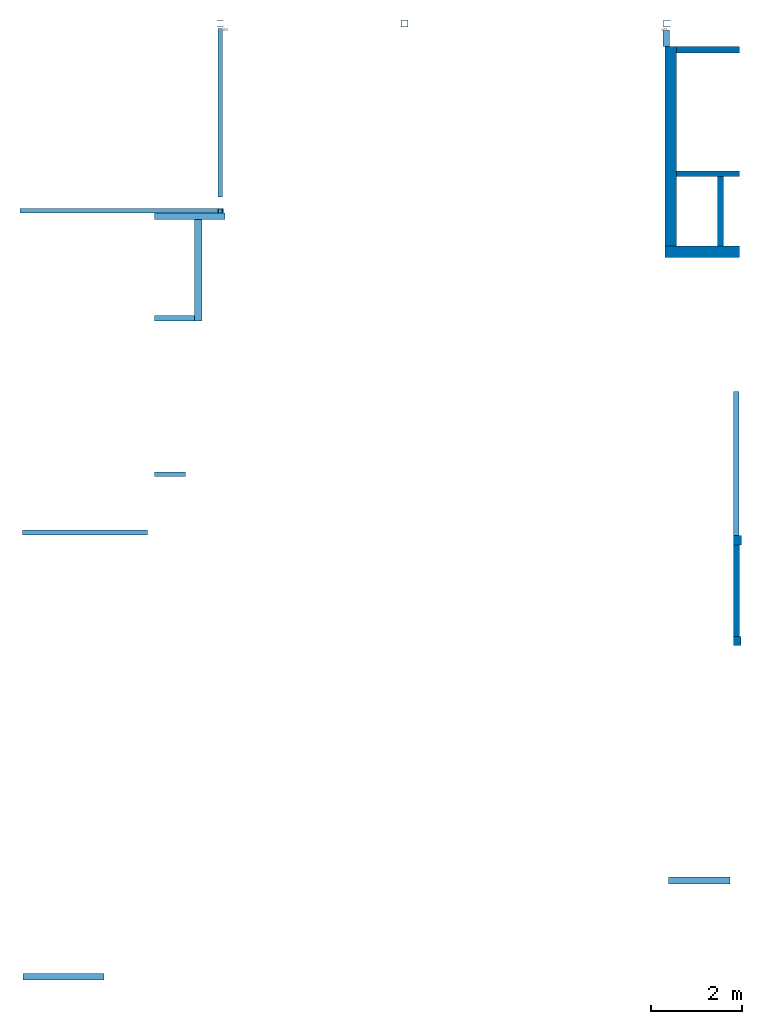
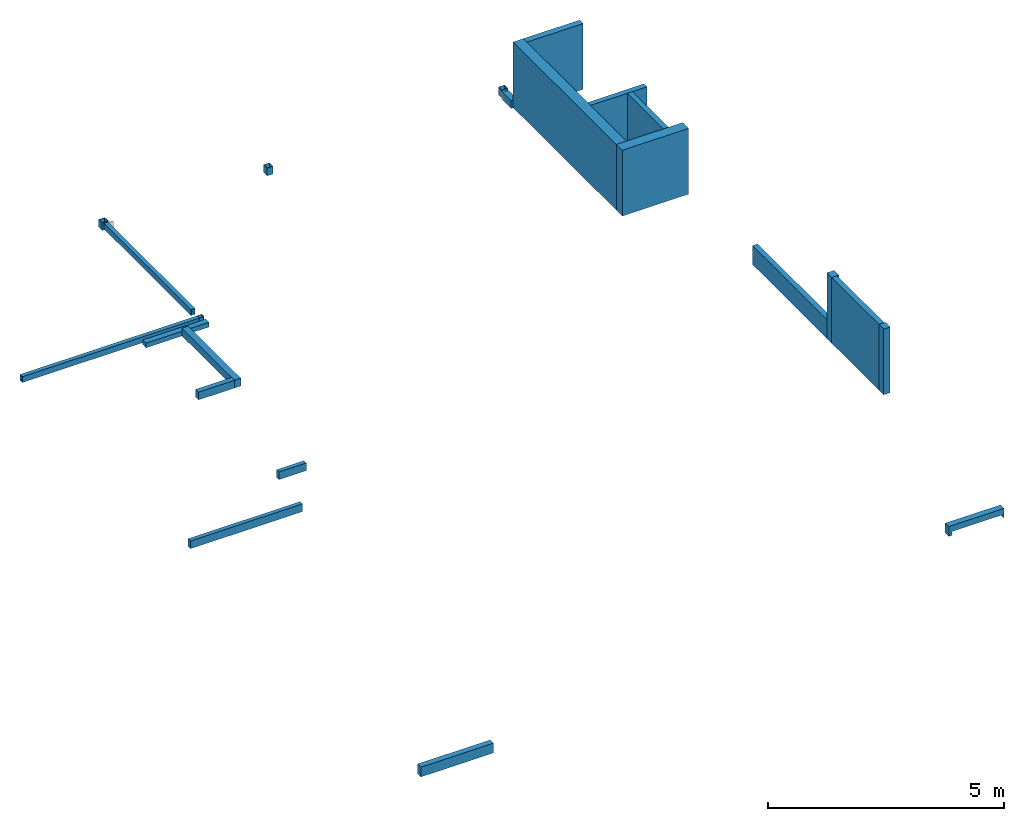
# One storey, part 1 of 2: 17 walls, 4 columns, 2 beams, 1 opening.
"""IFC2X3 building model written with IfcOpenShell, lengths in millimetres."""

import ifcopenshell
import ifcopenshell.guid

model = None  # the IFC model being written
_history = None  # IfcOwnerHistory: only IFC2X3 demands one
_inside = {}  # id of a spatial element -> (the spatial element, [elements in it])
_under = {}  # id of a project, library or spatial element -> (it, [spatial elements below it])
_declared = {}  # id of a project -> (the project, [libraries it declares])
_typed = {}  # id of a type object -> (the type object, [elements of that type])
_made_of = {}  # id of a material, layer set ... -> (it, [elements and type objects made of it])


def new_model(schema):
    """Start an empty IFC model of exactly this schema.

    Asked for "IFC4X3", IfcOpenShell would pick the latest addendum, in which some entities
    have other attributes; the version numbers below select the first issue.
    IFC2X3 requires an IfcOwnerHistory on every rooted entity: one is made here for all.
    """
    global model, _history
    if schema == "IFC4X3":
        model = ifcopenshell.file(schema_version=(4, 3, 0, 0))
    else:
        model = ifcopenshell.file(schema=schema)
    _inside.clear()
    _under.clear()
    _declared.clear()
    _typed.clear()
    _made_of.clear()
    _history = None
    if model.schema == "IFC2X3":
        org = make("IfcOrganization", Name="unknown")
        user = make(
            "IfcPersonAndOrganization",
            ThePerson=make("IfcPerson", FamilyName="unknown"),
            TheOrganization=org,
        )
        app = make(
            "IfcApplication",
            ApplicationDeveloper=org,
            Version="unknown",
            ApplicationFullName="unknown",
            ApplicationIdentifier="unknown",
        )
        _history = make(
            "IfcOwnerHistory",
            OwningUser=user,
            OwningApplication=app,
            ChangeAction="ADDED",
            CreationDate=0,
        )
    return model


def make(cls, **values):
    """One entity of the class cls with the attributes given. An attribute that is None is left unset."""
    return model.create_entity(
        cls, **{name: value for name, value in values.items() if value is not None}
    )


def entity(cls, *values):
    """Any entity or typed value of the class cls, its attributes in the order of the schema. None: left unset."""
    e = model.create_entity(cls)
    for i, value in enumerate(values):
        if value is not None:
            e[i] = value
    return e


def rooted(cls, **values):
    """An entity with a GlobalId (a new one), such as an element, a storey or a relation."""
    return make(cls, GlobalId=ifcopenshell.guid.new(), OwnerHistory=_history, **values)


def si_unit(unit_type, name, prefix=None):
    """IfcSIUnit, for example si_unit("LENGTHUNIT", "METRE", prefix="MILLI")."""
    return make("IfcSIUnit", UnitType=unit_type, Prefix=prefix, Name=name)


def converted_unit(unit_type, name, factor, base, dimensions=None, offset=None):
    """IfcConversionBasedUnit, such as the inch: factor (a typed value) times the base unit."""
    return make(
        "IfcConversionBasedUnit"
        if offset is None
        else "IfcConversionBasedUnitWithOffset",
        ConversionOffset=offset,
        Dimensions=None
        if dimensions is None
        else entity("IfcDimensionalExponents", *dimensions),
        UnitType=unit_type,
        Name=name,
        ConversionFactor=make(
            "IfcMeasureWithUnit", ValueComponent=factor, UnitComponent=base
        ),
    )


def derived_unit(unit_type, elements):
    """IfcDerivedUnit: a product of units, each with its exponent."""
    return make(
        "IfcDerivedUnit",
        Elements=[
            make("IfcDerivedUnitElement", Unit=unit, Exponent=power)
            for unit, power in elements
        ],
        UnitType=unit_type,
    )


def assignment(units):
    """IfcUnitAssignment: the units of a project."""
    return None if units is None else make("IfcUnitAssignment", Units=units)


def point(xyz):
    """IfcCartesianPoint."""
    return None if xyz is None else make("IfcCartesianPoint", Coordinates=xyz)


def direction(xyz):
    """IfcDirection."""
    return None if xyz is None else make("IfcDirection", DirectionRatios=xyz)


def frame(location, z_axis=None, x_axis=None):
    """IfcAxis2Placement3D, a coordinate frame: its origin and axes. An axis left out is left unset."""
    return make(
        "IfcAxis2Placement3D",
        Location=point(location),
        Axis=direction(z_axis),
        RefDirection=direction(x_axis),
    )


def frame_2d(location, x_axis=None):
    """IfcAxis2Placement2D, a coordinate frame in the plane: its origin and x axis."""
    return make(
        "IfcAxis2Placement2D", Location=point(location), RefDirection=direction(x_axis)
    )


def origin():
    """The frame at (0, 0, 0) with its axes left unset."""
    return frame((0.0, 0.0, 0.0))


def origin_with_axes():
    """The frame at (0, 0, 0) with the z axis (0, 0, 1) and the x axis (1, 0, 0) written out."""
    return frame((0.0, 0.0, 0.0), z_axis=(0.0, 0.0, 1.0), x_axis=(1.0, 0.0, 0.0))


def origin_2d_with_axis():
    """The frame at (0, 0) in the plane with the x axis (1, 0) written out."""
    return frame_2d((0.0, 0.0), x_axis=(1.0, 0.0))


def place(relative_to, where):
    """IfcLocalPlacement: puts the frame where relative to a parent placement (None: the world)."""
    return make(
        "IfcLocalPlacement", PlacementRelTo=relative_to, RelativePlacement=where
    )


def context(
    kind, dimensions, precision=None, world=None, true_north=None, identifier=None
):
    """IfcGeometricRepresentationContext, for example the 3D "Model" context."""
    return make(
        "IfcGeometricRepresentationContext",
        ContextIdentifier=identifier,
        ContextType=kind,
        CoordinateSpaceDimension=dimensions,
        Precision=precision,
        WorldCoordinateSystem=world,
        TrueNorth=true_north,
    )


def subcontext(parent, identifier, kind, view, scale=None):
    """IfcGeometricRepresentationSubContext, for example "Body" below "Model"."""
    return make(
        "IfcGeometricRepresentationSubContext",
        ContextIdentifier=identifier,
        ContextType=kind,
        ParentContext=parent,
        TargetScale=scale,
        TargetView=view,
    )


def project(units=None, contexts=None):
    """IfcProject with its units and contexts."""
    return rooted(
        "IfcProject",
        Name="project",
        RepresentationContexts=contexts,
        UnitsInContext=assignment(units),
    )


def spatial(cls, under=None, at=None, **own):
    """A site, building, storey or space (cls), placed at a placement, below another one or the project."""
    s = rooted(cls, ObjectPlacement=at, **own)
    if under is not None:
        _under.setdefault(under.id(), (under, []))[1].append(s)
    return s


def polyline(points):
    """IfcPolyline through the points."""
    return make("IfcPolyline", Points=[point(p) for p in points])


def profile(cls, at=None, kind="AREA", **sizes):
    """A parametric profile (cls). Its sizes go by their IFC names, for example OverallWidth=200.0."""
    return make(cls, ProfileType=kind, Position=at, **sizes)


def rectangle(**sizes):
    """IfcRectangleProfileDef."""
    return profile("IfcRectangleProfileDef", **sizes)


def outline(outer, holes=None, kind="AREA"):
    """IfcArbitraryClosedProfileDef: a profile drawn as a closed curve; with holes, ...WithVoids."""
    if holes is None:
        return make("IfcArbitraryClosedProfileDef", ProfileType=kind, OuterCurve=outer)
    return make(
        "IfcArbitraryProfileDefWithVoids",
        ProfileType=kind,
        OuterCurve=outer,
        InnerCurves=holes,
    )


def extrude(swept, where, along, depth):
    """IfcExtrudedAreaSolid: the profile swept, set in the frame where, extruded along a direction by depth."""
    return make(
        "IfcExtrudedAreaSolid",
        SweptArea=swept,
        Position=where,
        ExtrudedDirection=direction(along),
        Depth=depth,
    )


def boolean(op, a, b):
    """IfcBooleanResult of two solids."""
    return make("IfcBooleanResult", Operator=op, FirstOperand=a, SecondOperand=b)


def clip(a, b, op="DIFFERENCE"):
    """IfcBooleanClippingResult: the solid a cut by the half space b."""
    return make(
        "IfcBooleanClippingResult", Operator=op, FirstOperand=a, SecondOperand=b
    )


def halfspace(plane, agree):
    """IfcHalfSpaceSolid: all space on one side of the plane z = 0 of the frame plane."""
    return make(
        "IfcHalfSpaceSolid",
        BaseSurface=make("IfcPlane", Position=plane),
        AgreementFlag=agree,
    )


def faces_of(points, faces, orient=None, outer=None):
    """IfcFace entities. A face is a list of loops; a loop is a list of indices into points, from 0.

    orient and outer hold one flag for each loop. By default every Orientation is true, the
    first loop of a face is its IfcFaceOuterBound and the others are IfcFaceBound.
    """
    made = []
    for i, loops in enumerate(faces):
        bounds = []
        for j, loop in enumerate(loops):
            is_outer = j == 0 if outer is None else outer[i][j]
            bounds.append(
                make(
                    "IfcFaceOuterBound" if is_outer else "IfcFaceBound",
                    Bound=make("IfcPolyLoop", Polygon=[points[k] for k in loop]),
                    Orientation=True if orient is None else orient[i][j],
                )
            )
        made.append(make("IfcFace", Bounds=bounds))
    return made


def faceted_brep(points, faces, orient=None, outer=None, voids=None):
    """IfcFacetedBrep: a solid bounded by flat faces; with voids (closed shells), ...WithVoids."""
    shared = [point(p) for p in points]
    hull = make("IfcClosedShell", CfsFaces=faces_of(shared, faces, orient, outer))
    if voids is None:
        return make("IfcFacetedBrep", Outer=hull)
    return make(
        "IfcFacetedBrepWithVoids",
        Outer=hull,
        Voids=[
            make(cls, CfsFaces=faces_of(shared, fs, o, b)) for cls, fs, o, b in voids
        ],
    )


def shape(context_of_items, identifier, shape_type, items):
    """IfcShapeRepresentation: the items that make up one representation, for example the "Body"."""
    return make(
        "IfcShapeRepresentation",
        ContextOfItems=context_of_items,
        RepresentationIdentifier=identifier,
        RepresentationType=shape_type,
        Items=items,
    )


def source(mapping_origin, context_of_items, identifier, shape_type, items):
    """IfcRepresentationMap: a shape defined once, which mapped items show again and again."""
    return make(
        "IfcRepresentationMap",
        MappingOrigin=mapping_origin,
        MappedRepresentation=shape(context_of_items, identifier, shape_type, items),
    )


def transform(
    local_origin,
    x_axis=None,
    y_axis=None,
    z_axis=None,
    scale=None,
    scale2=None,
    scale3=None,
    uniform=True,
):
    """IfcCartesianTransformationOperator3D, or its non-uniform kind. x_axis, y_axis, z_axis: its Axis1, 2, 3."""
    if uniform:
        return make(
            "IfcCartesianTransformationOperator3D",
            Axis1=direction(x_axis),
            Axis2=direction(y_axis),
            LocalOrigin=point(local_origin),
            Scale=scale,
            Axis3=direction(z_axis),
        )
    return make(
        "IfcCartesianTransformationOperator3DnonUniform",
        Axis1=direction(x_axis),
        Axis2=direction(y_axis),
        LocalOrigin=point(local_origin),
        Scale=scale,
        Axis3=direction(z_axis),
        Scale2=scale2,
        Scale3=scale3,
    )


def mapped(mapping_source, mapping_target):
    """IfcMappedItem: shows the shape of a source again, moved by a transform."""
    return make(
        "IfcMappedItem", MappingSource=mapping_source, MappingTarget=mapping_target
    )


def material(Name=None, Category=None):
    """IfcMaterial."""
    return make("IfcMaterial", Name=Name, Category=Category)


def layer(
    of_material, thickness, ventilated=None, Name=None, Category=None, Priority=None
):
    """IfcMaterialLayer: one layer of a wall or slab, of a material (None: an air gap)."""
    return make(
        "IfcMaterialLayer",
        Material=of_material,
        LayerThickness=thickness,
        IsVentilated=ventilated,
        Name=Name,
        Category=Category,
        Priority=Priority,
    )


def layer_set(layers, Name=None):
    """IfcMaterialLayerSet."""
    return make("IfcMaterialLayerSet", MaterialLayers=layers, LayerSetName=Name)


def layer_usage(for_layer_set, set_direction, sense, offset, extent=None):
    """IfcMaterialLayerSetUsage: how a layer set lies in its element."""
    return make(
        "IfcMaterialLayerSetUsage",
        ForLayerSet=for_layer_set,
        LayerSetDirection=set_direction,
        DirectionSense=sense,
        OffsetFromReferenceLine=offset,
        ReferenceExtent=extent,
    )


def made_of(thing, what):
    """Note that an element or type object is made of a material, layer set ...; save() writes the relation."""
    if what is not None:
        _made_of.setdefault(what.id(), (what, []))[1].append(thing)
    return thing


def type_object(cls, material=None, **own):
    """A type object (cls), such as IfcWallType, which elements share."""
    return made_of(rooted(cls, **own), material)


def element(
    cls,
    number,
    at=None,
    inside=None,
    cuts=None,
    type_object=None,
    material=None,
    context=None,
    identifier="Body",
    shape_type=None,
    held_by="IfcProductDefinitionShape",
    body=None,
    shapes=None,
    **own,
):
    """One element of the class cls, such as IfcWall. Its Tag is "e" and its number.

    at: its placement. inside: the storey or other place that contains it. cuts: it is an
    opening in that element (IfcRelVoidsElement). A single representation is given by context,
    identifier, shape_type and body (its items); several are given by shapes. held_by: the class
    of the entity that holds the representations. save() writes the other relations.
    """
    e = rooted(cls, Tag="e%d" % number, ObjectPlacement=at, **own)
    if body is not None:
        shapes = [shape(context, identifier, shape_type, body)]
    if shapes is not None:
        e.Representation = make(held_by, Representations=shapes)
    if inside is not None:
        _inside.setdefault(inside.id(), (inside, []))[1].append(e)
    if cuts is not None:
        rooted(
            "IfcRelVoidsElement", RelatingBuildingElement=cuts, RelatedOpeningElement=e
        )
    if type_object is not None:
        _typed.setdefault(type_object.id(), (type_object, []))[1].append(e)
    return made_of(e, material)


def aggregate(whole, parts):
    """IfcRelAggregates: a whole, such as a stair, and the parts it consists of."""
    return rooted("IfcRelAggregates", RelatingObject=whole, RelatedObjects=parts)


def save(model, path):
    """Write the relations noted so far, then the file.

    IfcRelAggregates (storeys below a building ...), IfcRelContainedInSpatialStructure (elements
    in a storey), IfcRelDefinesByType, IfcRelAssociatesMaterial and IfcRelDeclares: one each for
    every whole, place, type object, material and project.
    """
    for whole, parts in _under.values():
        aggregate(whole, parts)
    for where, things in _inside.values():
        rooted(
            "IfcRelContainedInSpatialStructure",
            RelatedElements=things,
            RelatingStructure=where,
        )
    for kind, things in _typed.values():
        rooted("IfcRelDefinesByType", RelatedObjects=things, RelatingType=kind)
    for what, things in _made_of.values():
        rooted("IfcRelAssociatesMaterial", RelatedObjects=things, RelatingMaterial=what)
    for by, libraries in _declared.values():
        rooted("IfcRelDeclares", RelatingContext=by, RelatedDefinitions=libraries)
    model.write(path)


model = new_model("IFC2X3")

# Units and contexts
model_context = context("Model", 3, precision=0.01, world=frame((0.0, 4.29681676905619e-09, 0.0)), true_north=direction((4.01073788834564e-13, 1.0)))
plan_context = context("Plan", 3, precision=0.01, world=frame((0.0, 4.29681676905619e-09, 0.0)), true_north=direction((4.01073788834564e-13, 1.0)))
body_context = subcontext(model_context, "Body", "Model", "MODEL_VIEW")
ifc_project = project(units=[converted_unit("PLANEANGLEUNIT", "DEGREE", entity("IfcPositiveLengthMeasure", 0.0174532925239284), si_unit("PLANEANGLEUNIT", "RADIAN"), dimensions=[0, 0, 0, 0, 0, 0, 0]), si_unit("AREAUNIT", "SQUARE_METRE"), si_unit("LENGTHUNIT", "METRE", prefix="MILLI"), si_unit("MASSUNIT", "GRAM", prefix="KILO"), si_unit("POWERUNIT", "WATT"), si_unit("PRESSUREUNIT", "PASCAL"), si_unit("FORCEUNIT", "NEWTON", prefix="KILO"), si_unit("ELECTRICVOLTAGEUNIT", "VOLT"), si_unit("ELECTRICCURRENTUNIT", "AMPERE"), si_unit("THERMODYNAMICTEMPERATUREUNIT", "DEGREE_CELSIUS"), si_unit("TIMEUNIT", "SECOND"), si_unit("VOLUMEUNIT", "CUBIC_METRE"), derived_unit("LINEARVELOCITYUNIT", [(si_unit("LENGTHUNIT", "METRE"), 1), (si_unit("TIMEUNIT", "SECOND"), -1)]), derived_unit("VOLUMETRICFLOWRATEUNIT", [(si_unit("VOLUMEUNIT", "CUBIC_METRE"), 1), (si_unit("TIMEUNIT", "SECOND"), -1)]), derived_unit("THERMALTRANSMITTANCEUNIT", [(si_unit("POWERUNIT", "WATT"), 1), (si_unit("THERMODYNAMICTEMPERATUREUNIT", "KELVIN"), -1), (si_unit("AREAUNIT", "SQUARE_METRE"), -1)]), derived_unit("SOUNDPRESSUREUNIT", [(si_unit("PRESSUREUNIT", "PASCAL"), 1)])], contexts=[model_context, plan_context])

# Site, building, storey
site_placement = place(None, origin_with_axes())
site = spatial("IfcSite", under=ifc_project, at=site_placement, Name="ENGM", CompositionType="ELEMENT")
building_placement = place(site_placement, origin_with_axes())
building = spatial("IfcBuilding", under=site, at=building_placement, Name="TS", CompositionType="ELEMENT")
storey_placement = place(building_placement, frame((0.0, 0.0, 213700.0), z_axis=(0.0, 0.0, 1.0), x_axis=(1.0, 0.0, 0.0)))
storey = spatial("IfcBuildingStorey", under=building, at=storey_placement, Name="Nivå G - 2,0m", CompositionType="ELEMENT", Elevation=213700.0)

# Columns
ifc_material_1 = material(Name="_NSW Stål")
column_type_1 = type_object("IfcColumnType", Name="B222 - HUP (Oppsveiset)1:B222 - HUP oppsveiset - 150 x 150 x 6 mm 2", PredefinedType="COLUMN", material=ifc_material_1)
shared_shape_1 = source(origin(), body_context, "Body", "SweptSolid", [
    extrude(outline(polyline([(-75.0, -75.0), (75.0, -75.0), (75.0, 75.0), (-75.0, 75.0), (-75.0, -75.0)]), holes=[polyline([(-69.0, -69.0), (-69.0, 69.0), (69.0, 69.0), (69.0, -69.0), (-69.0, -69.0)])]), frame((0.0, 0.0, 213700.0), z_axis=(0.0, 0.0, 1.0), x_axis=(0.0, 1.0, 0.0)), (0.0, 0.0, 1.0), 200.000000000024),
    extrude(outline(polyline([(-75.0, -75.0), (75.0, -75.0), (75.0, 75.0), (-75.0, 75.0), (-75.0, -75.0)]), holes=[polyline([(-69.0, -69.0), (-69.0, 69.0), (69.0, 69.0), (69.0, -69.0), (-69.0, -69.0)])]), frame((0.0, 0.0, 213700.0), z_axis=(0.0, 0.0, 1.0), x_axis=(0.0, 1.0, 0.0)), (0.0, 0.0, 1.0), 200.000000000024),
])
for number, where, z_axis, x_axis in (
    (1, (524970.000000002, 461799.999999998, -213700.0), (0.0, 0.0, 1.0), (1.0, 0.0, 0.0)),
    (2, (534740.000000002, 461799.999999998, -213700.0), (0.0, 0.0, 1.0), (1.0, 0.0, 0.0)),
    (3, (529000.000000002, 461799.999999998, -213700.0), (0.0, 0.0, 1.0), (1.0, 0.0, 0.0)),
):
    element("IfcColumn", number, at=place(storey_placement, frame(where, z_axis=z_axis, x_axis=x_axis)), inside=storey, type_object=column_type_1, material=ifc_material_1, Name="B222 - HUP (Oppsveiset)1:B222 - HUP oppsveiset - 150 x 150 x 6 mm 2", ObjectType="B222 - HUP (Oppsveiset)1:B222 - HUP oppsveiset - 150 x 150 x 6 mm 2", context=body_context, shape_type="MappedRepresentation", body=[
        mapped(shared_shape_1, transform((0.0, 0.0, 0.0), scale=1.0)),
    ])
column_type_2 = type_object("IfcColumnType", Name="B222 - HUP (Oppsveiset)1:B222 - HUP oppsveiset - 100 x 100 x 8 mm", PredefinedType="COLUMN", material=ifc_material_1)
shared_shape_2 = source(origin(), body_context, "Body", "SweptSolid", [
    extrude(outline(polyline([(-50.0, -50.0), (50.0, -50.0), (50.0, 50.0), (-50.0, 50.0), (-50.0, -50.0)]), holes=[polyline([(-42.0, -42.0), (-42.0, 42.0), (42.0, 42.0), (42.0, -42.0), (-42.0, -42.0)])]), frame((0.0, 0.0, 213700.0), z_axis=(0.0, 0.0, 1.0), x_axis=(0.0, 1.0, 0.0)), (0.0, 0.0, 1.0), 200.000000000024),
    extrude(outline(polyline([(-50.0, -50.0), (50.0, -50.0), (50.0, 50.0), (-50.0, 50.0), (-50.0, -50.0)]), holes=[polyline([(-42.0, -42.0), (-42.0, 42.0), (42.0, 42.0), (42.0, -42.0), (-42.0, -42.0)])]), frame((0.0, 0.0, 213700.0), z_axis=(0.0, 0.0, 1.0), x_axis=(0.0, 1.0, 0.0)), (0.0, 0.0, 1.0), 200.000000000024),
])
column_placement = place(storey_placement, frame((524970.000000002, 457699.999999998, -213700.0), z_axis=(0.0, 0.0, 1.0), x_axis=(1.0, 0.0, 0.0)))
element("IfcColumn", 4, at=column_placement, inside=storey, type_object=column_type_2, material=ifc_material_1, Name="B222 - HUP (Oppsveiset)1:B222 - HUP oppsveiset - 100 x 100 x 8 mm", ObjectType="B222 - HUP (Oppsveiset)1:B222 - HUP oppsveiset - 100 x 100 x 8 mm", context=body_context, shape_type="MappedRepresentation", body=[
    mapped(shared_shape_2, transform((0.0, 0.0, 0.0), scale=1.0)),
])

# Beams
beam_type = type_object("IfcBeamType", Name="B223 - Bjelke - HUP1:B223 - HUP 100 x 150 x 8 mm", PredefinedType="BEAM")
beam_1_placement = place(storey_placement, frame((525036.097587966, 457699.999999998, 50.0), z_axis=(0.0, 0.0, 1.0), x_axis=(-1.0, 0.0, 0.0)))
element("IfcBeam", 5, at=beam_1_placement, inside=storey, type_object=beam_type, material=ifc_material_1, Name="B223 - Bjelke - HUP1:B223 - HUP 100 x 150 x 8 mm", ObjectType="B223 - Bjelke - HUP1:B223 - HUP 100 x 150 x 8 mm", context=body_context, shape_type="SweptSolid", body=[
    boolean("DIFFERENCE", extrude(rectangle(XDim=150.000000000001, YDim=100.000000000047, at=frame_2d((0.0, 6.93063384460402e-11), x_axis=(1.0, 0.0))), frame((0.0, 0.0, 75.0), z_axis=(1.0, 0.0, 0.0), x_axis=(0.0, 0.0, -1.0)), (0.0, 0.0, 1.0), 4445.00000000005), extrude(rectangle(XDim=134.000000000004, YDim=83.9999999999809, at=frame_2d((-3.46531692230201e-11, 0.0), x_axis=(0.0, 1.0))), frame((0.0, 0.0, 75.0), z_axis=(1.0, 0.0, 0.0), x_axis=(0.0, -1.0, 0.0)), (0.0, 0.0, 1.0), 4445.00000000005)),
])
beam_2_placement = place(storey_placement, frame((524969.999999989, 461694.499999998, 50.0), z_axis=(0.0, 0.0, 1.0), x_axis=(0.0, -1.0, 0.0)))
element("IfcBeam", 6, at=beam_2_placement, inside=storey, type_object=beam_type, material=ifc_material_1, Name="B223 - Bjelke - HUP1:B223 - HUP 100 x 150 x 8 mm", ObjectType="B223 - Bjelke - HUP1:B223 - HUP 100 x 150 x 8 mm", context=body_context, shape_type="SweptSolid", body=[
    boolean("DIFFERENCE", extrude(rectangle(XDim=150.000000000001, YDim=100.000000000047, at=origin_2d_with_axis()), frame((0.0, 0.0, 75.0), z_axis=(1.0, 0.0, 0.0), x_axis=(0.0, 0.0, -1.0)), (0.0, 0.0, 1.0), 3687.49999999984), extrude(rectangle(XDim=134.000000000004, YDim=83.9999999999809, at=frame_2d((-3.46531692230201e-11, 0.0), x_axis=(0.0, 1.0))), frame((0.0, 0.0, 75.0), z_axis=(1.0, 0.0, 0.0), x_axis=(0.0, -1.0, 0.0)), (0.0, 0.0, 1.0), 3687.49999999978)),
])

# Walls
ifc_material_2 = material(Name="T2_Gips Protect F")
ifc_layer_1 = layer(ifc_material_2, 15.0)
ifc_material_3 = material(Name="_NSW Stålstender, uisolert")
ifc_layer_2 = layer(ifc_material_3, 100.0)
ifc_layer_3 = layer(ifc_material_2, 15.0)
ifc_layer_set_1 = layer_set([ifc_layer_1, ifc_layer_2, ifc_layer_3], Name="Basic Wall:A241 - FVF-100 (100/100 p-p)")
ifc_layer_usage_1 = layer_usage(ifc_layer_set_1, "AXIS2", "NEGATIVE", 65.0)
wall_type_1 = type_object("IfcWallType", Name="Basic Wall:A241 - FVF-100 (100/100 p-p)", PredefinedType="STANDARD", material=ifc_layer_set_1)
wall_1_placement = place(storey_placement, frame((536255.500000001, 450399.999999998, 0.0), z_axis=(0.0, 0.0, 1.0), x_axis=(0.0, -1.0, 0.0)))
element("IfcWallStandardCase", 7, at=wall_1_placement, inside=storey, type_object=wall_type_1, material=ifc_layer_usage_1, Name="Basic Wall:A241 - FVF-100 (100/100 p-p)", ObjectType="Basic Wall:A241 - FVF-100 (100/100 p-p)", context=body_context, shape_type="Clipping", body=[
    clip(extrude(rectangle(XDim=1999.99999999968, YDim=130.000000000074, at=frame_2d((999.999999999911, -3.08020275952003e-11), x_axis=(1.0, 0.0))), origin(), (0.0, 0.0, 1.0), 1699.99999999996), halfspace(frame((0.0, 0.0, -2800.0)), True)),
])
ifc_material_4 = material(Name="Plate - Gips")
ifc_layer_4 = layer(ifc_material_4, 12.5)
ifc_layer_5 = layer(ifc_material_4, 12.5)
ifc_layer_6 = layer(ifc_material_3, 100.0)
ifc_layer_7 = layer(ifc_material_4, 12.5)
ifc_layer_8 = layer(ifc_material_4, 12.5)
ifc_layer_set_2 = layer_set([ifc_layer_4, ifc_layer_5, ifc_layer_6, ifc_layer_7, ifc_layer_8], Name="Basic Wall:A241 - GSVS-30 (100/100 gg-gg)")
wall_type_2 = type_object("IfcWallType", Name="Basic Wall:A241 - GSVS-30 (100/100 gg-gg)", PredefinedType="STANDARD", material=ifc_layer_set_2)
wall_2_placement = place(storey_placement, frame((534946.99999998, 461224.300000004, 0.0), z_axis=(0.0, 0.0, 1.0), x_axis=(1.0, 0.0, 0.0)))
element("IfcWall", 8, at=wall_2_placement, inside=storey, type_object=wall_type_2, Name="Basic Wall:A241 - GSVS-30 (100/100 gg-gg)", ObjectType="Basic Wall:A241 - GSVS-30 (100/100 gg-gg)", context=body_context, shape_type="Brep", body=[
    faceted_brep([(-4.54747350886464e-13, 74.9999999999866, 0.0), (-4.54747350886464e-13, 74.9999999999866, 1699.99999999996), (-4.54747350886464e-13, -75.000000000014, 1699.99999999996), (-4.54747350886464e-13, -75.000000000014, 0.0), (1373.50000002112, -75.000000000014, 1699.99999999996), (1373.50000002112, -75.000000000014, 0.0), (1373.50000002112, 74.9999999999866, 0.0), (1373.50000002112, 74.9999999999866, 1699.99999999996)], [[[0, 1, 2, 3]], [[4, 5, 3, 2]], [[6, 7, 1, 0]], [[5, 6, 0, 3]], [[7, 4, 2, 1]], [[7, 6, 5, 4]]], orient=[[False], [False], [False], [False], [False], [False]]),
])
ifc_layer_9 = layer(ifc_material_4, 12.5)
ifc_layer_10 = layer(ifc_material_4, 12.5)
ifc_layer_11 = layer(ifc_material_3, 200.0)
ifc_layer_12 = layer(ifc_material_4, 12.5)
ifc_layer_13 = layer(ifc_material_4, 12.5)
ifc_layer_set_3 = layer_set([ifc_layer_9, ifc_layer_10, ifc_layer_11, ifc_layer_12, ifc_layer_13], Name="Basic Wall:A241 - GSVS-50 (100/100x2 gg-gg)")
ifc_layer_usage_2 = layer_usage(ifc_layer_set_3, "AXIS2", "NEGATIVE", 125.0)
wall_type_3 = type_object("IfcWallType", Name="Basic Wall:A241 - GSVS-50 (100/100x2 gg-gg)", PredefinedType="STANDARD", material=ifc_layer_set_3)
wall_3_placement = place(storey_placement, frame((534821.999999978, 456932.300000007, 0.0), z_axis=(0.0, 0.0, 1.0), x_axis=(0.0, 1.0, 0.0)))
element("IfcWallStandardCase", 9, at=wall_3_placement, inside=storey, type_object=wall_type_3, material=ifc_layer_usage_2, Name="Basic Wall:A241 - GSVS-50 (100/100x2 gg-gg)", ObjectType="Basic Wall:A241 - GSVS-50 (100/100x2 gg-gg)", context=body_context, shape_type="Clipping", body=[
    clip(extrude(rectangle(XDim=4366.99999999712, YDim=249.999999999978, at=frame_2d((2183.49999999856, 1.44382283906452e-11), x_axis=(-1.0, 0.0))), origin(), (0.0, 0.0, 1.0), 1699.99999999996), halfspace(frame((0.0, 0.0, -2800.0)), True)),
])
wall_4_placement = place(storey_placement, frame((541054.0, 456807.300000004, 0.0), z_axis=(0.0, 0.0, 1.0), x_axis=(-1.0, 0.0, 0.0)))
element("IfcWall", 10, at=wall_4_placement, inside=storey, type_object=wall_type_3, Name="Basic Wall:A241 - GSVS-50 (100/100x2 gg-gg)", ObjectType="Basic Wall:A241 - GSVS-50 (100/100x2 gg-gg)", context=body_context, shape_type="Brep", body=[
    faceted_brep([(6357.00000002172, -124.999999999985, 0.0), (6357.00000002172, -124.999999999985, 1699.99999999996), (6357.00000002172, 124.999999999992, 1699.99999999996), (6357.00000002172, 124.999999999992, 0.0), (4733.49999999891, 124.999999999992, 1699.99999999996), (4733.49999999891, 124.999999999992, 0.0), (4733.49999999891, -124.999999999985, 0.0), (4733.49999999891, -124.999999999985, 1699.99999999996)], [[[0, 1, 2, 3]], [[4, 5, 3, 2]], [[6, 7, 1, 0]], [[5, 6, 0, 3]], [[7, 4, 2, 1]], [[7, 6, 5, 4]]], orient=[[False], [False], [False], [False], [False], [False]]),
])
ifc_layer_14 = layer(ifc_material_4, 12.5)
ifc_layer_15 = layer(ifc_material_3, 100.0)
ifc_layer_16 = layer(ifc_material_4, 12.5)
ifc_layer_set_4 = layer_set([ifc_layer_14, ifc_layer_15, ifc_layer_16], Name="Basic Wall:A241 - GRVR-20 (100/100 r-r)")
ifc_layer_usage_3 = layer_usage(ifc_layer_set_4, "AXIS2", "NEGATIVE", 62.5)
wall_type_4 = type_object("IfcWallType", Name="Basic Wall:A241 - GRVR-20 (100/100 r-r)", PredefinedType="STANDARD", material=ifc_layer_set_4)
wall_5_placement = place(storey_placement, frame((535906.0, 456932.300000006, 0.0), z_axis=(0.0, 0.0, 1.0), x_axis=(0.0, 1.0, 0.0)))
element("IfcWallStandardCase", 11, at=wall_5_placement, inside=storey, type_object=wall_type_4, material=ifc_layer_usage_3, Name="Basic Wall:A241 - GRVR-20 (100/100 r-r)", ObjectType="Basic Wall:A241 - GRVR-20 (100/100 r-r)", context=body_context, shape_type="Clipping", body=[
    clip(extrude(rectangle(XDim=1520.50000000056, YDim=124.999999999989, at=frame_2d((760.250000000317, 2.56399346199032e-11), x_axis=(-1.0, 0.0))), origin(), (0.0, 0.0, 1.0), 1699.99999999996), halfspace(frame((0.0, 0.0, -2800.0)), True)),
])
wall_6_placement = place(storey_placement, frame((537876.999999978, 458515.300000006, 0.0), z_axis=(0.0, 0.0, 1.0), x_axis=(-1.0, 0.0, 0.0)))
element("IfcWall", 12, at=wall_6_placement, inside=storey, type_object=wall_type_4, Name="Basic Wall:A241 - GRVR-20 (100/100 r-r)", ObjectType="Basic Wall:A241 - GRVR-20 (100/100 r-r)", context=body_context, shape_type="Brep", body=[
    faceted_brep([(1556.4999999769, -62.4999999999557, 0.0), (1556.4999999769, -62.4999999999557, 1699.99999999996), (2929.99999999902, -62.4999999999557, 1699.99999999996), (2929.99999999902, -62.4999999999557, 0.0), (2929.99999999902, 62.5000000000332, 1699.99999999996), (2929.99999999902, 62.5000000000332, 0.0), (1556.4999999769, 62.5000000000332, 1699.99999999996), (1556.4999999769, 62.5000000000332, 0.0)], [[[0, 1, 2, 3]], [[3, 2, 4, 5]], [[6, 7, 5, 4]], [[7, 0, 3, 5]], [[1, 6, 4, 2]], [[7, 6, 1, 0]]], orient=[[False], [False], [False], [False], [False], [False]]),
])
ifc_material_5 = material(Name="_NSW Gips-Lydplate")
ifc_layer_17 = layer(ifc_material_5, 15.0)
ifc_layer_18 = layer(ifc_material_3, 170.0)
ifc_layer_19 = layer(ifc_material_5, 15.0)
ifc_layer_set_5 = layer_set([ifc_layer_17, ifc_layer_18, ifc_layer_19], Name="Basic Wall:A241 - FVF-170 (170/170 p-p)")
ifc_layer_usage_4 = layer_usage(ifc_layer_set_5, "AXIS2", "NEGATIVE", 100.0)
wall_type_5 = type_object("IfcWallType", Name="Basic Wall:A241 - FVF-170 (170/170 p-p)", PredefinedType="STANDARD", material=ifc_layer_set_5)
wall_7_placement = place(storey_placement, frame((536367.850000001, 450499.999999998, 0.0), z_axis=(0.0, 0.0, 1.0), x_axis=(-1.0, 0.0, 0.0)))
element("IfcWallStandardCase", 13, at=wall_7_placement, inside=storey, type_object=wall_type_5, material=ifc_layer_usage_4, Name="Basic Wall:A241 - FVF-170 (170/170 p-p)", ObjectType="Basic Wall:A241 - FVF-170 (170/170 p-p)", context=body_context, shape_type="Clipping", body=[
    clip(extrude(rectangle(XDim=177.350000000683, YDim=200.000000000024, at=frame_2d((88.6750000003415, -4.36131131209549e-11), x_axis=(-1.0, 0.0))), origin(), (0.0, 0.0, 1.0), 1699.99999999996), halfspace(frame((0.0, 0.0, -2800.0)), True)),
])
ifc_layer_usage_5 = layer_usage(ifc_layer_set_5, "AXIS2", "NEGATIVE", 100.0)
wall_8_placement = place(storey_placement, frame((536350.000000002, 448299.999999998, 0.0), z_axis=(0.0, 0.0, 1.0), x_axis=(-1.0, 0.0, 0.0)))
element("IfcWallStandardCase", 14, at=wall_8_placement, inside=storey, type_object=wall_type_5, material=ifc_layer_usage_5, Name="Basic Wall:A241 - FVF-170 (170/170 p-p)", ObjectType="Basic Wall:A241 - FVF-170 (170/170 p-p)", context=body_context, shape_type="Clipping", body=[
    clip(extrude(rectangle(XDim=159.500000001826, YDim=200.000000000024, at=frame_2d((79.7500000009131, -5.18198817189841e-11), x_axis=(-1.0, 0.0))), origin(), (0.0, 0.0, 1.0), 1699.99999999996), halfspace(frame((0.0, 0.0, -2800.0)), True)),
])
ifc_layer_20 = layer(ifc_material_4, 12.5)
ifc_layer_21 = layer(ifc_material_3, 100.0)
ifc_layer_22 = layer(ifc_material_4, 12.5)
ifc_layer_set_6 = layer_set([ifc_layer_20, ifc_layer_21, ifc_layer_22], Name="Basic Wall:A241 - RVR-100")
ifc_layer_usage_6 = layer_usage(ifc_layer_set_6, "AXIS2", "NEGATIVE", 62.5)
wall_type_6 = type_object("IfcWallType", Name="Basic Wall:A241 - RVR-100", PredefinedType="STANDARD", material=ifc_layer_set_6)
wall_9_placement = place(storey_placement, frame((536253.499999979, 453756.287499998, 0.0), z_axis=(0.0, 0.0, 1.0), x_axis=(0.0, -1.0, 0.0)))
element("IfcWallStandardCase", 15, at=wall_9_placement, inside=storey, type_object=wall_type_6, material=ifc_layer_usage_6, Name="Basic Wall:A241 - RVR-100", ObjectType="Basic Wall:A241 - RVR-100", context=body_context, shape_type="Clipping", body=[
    clip(extrude(rectangle(XDim=3156.28749999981, YDim=124.999999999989, at=frame_2d((1578.1437499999, 3.46496165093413e-11), x_axis=(-1.0, 0.0))), origin(), (0.0, 0.0, 1.0), 490.000000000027), halfspace(frame((0.0, 0.0, -2800.0)), True)),
])
ifc_layer_23 = layer(ifc_material_4, 12.5)
ifc_material_6 = material(Name="_NSW X-finer")
ifc_layer_24 = layer(ifc_material_6, 15.0)
ifc_layer_25 = layer(ifc_material_3, 100.0)
ifc_layer_26 = layer(ifc_material_4, 12.5)
ifc_layer_set_7 = layer_set([ifc_layer_23, ifc_layer_24, ifc_layer_25, ifc_layer_26], Name="Basic Wall:A241 - SXVS-100")
wall_type_7 = type_object("IfcWallType", Name="Basic Wall:A241 - SXVS-100", PredefinedType="STANDARD", material=ifc_layer_set_7)
wall_10_placement = place(storey_placement, frame((522427.500000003, 440954.999999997, 0.0), z_axis=(0.0, 0.0, 1.0), x_axis=(-1.0, 0.0, 0.0)))
element("IfcWall", 16, at=wall_10_placement, inside=storey, type_object=wall_type_7, Name="Basic Wall:A241 - SXVS-100", ObjectType="Basic Wall:A241 - SXVS-100", context=body_context, shape_type="Brep", body=[
    faceted_brep([(1771.50000000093, -70.0, 254.0), (0.0, -70.0, 254.0), (0.0, -70.0, 0.0), (1771.50000000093, -70.0, 0.0), (0.0, 70.0, 254.0), (1771.50000000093, 70.0, 254.0), (1771.50000000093, 70.0, 100.0), (1771.50000000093, 70.0, 0.0), (0.0, 70.0, 0.0)], [[[0, 1, 2, 3]], [[4, 5, 6, 7, 8]], [[1, 0, 5, 4]], [[1, 4, 8, 2]], [[6, 5, 0, 3, 7]], [[3, 2, 8, 7]]]),
])
ifc_layer_usage_7 = layer_usage(ifc_layer_set_7, "AXIS2", "NEGATIVE", 70.0)
wall_11_placement = place(storey_placement, frame((523534.500000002, 457581.499999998, 0.0), z_axis=(0.0, 0.0, 1.0), x_axis=(1.0, 0.0, 0.0)))
element("IfcWallStandardCase", 17, at=wall_11_placement, inside=storey, type_object=wall_type_7, material=ifc_layer_usage_7, Name="Basic Wall:A241 - SXVS-100", ObjectType="Basic Wall:A241 - SXVS-100", context=body_context, shape_type="Clipping", body=[
    clip(extrude(rectangle(XDim=1540.25909142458, YDim=139.999999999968, at=frame_2d((770.129545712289, 3.46531692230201e-11), x_axis=(-1.0, 0.0))), origin(), (0.0, 0.0, 1.0), 122.000000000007), halfspace(frame((0.0, 0.0, -2800.0)), True)),
])
ifc_material_7 = material(Name="T2_Gips Fibergips")
ifc_layer_27 = layer(ifc_material_7, 13.0)
ifc_material_8 = material(Name="T2 - Kryssfiner")
ifc_layer_28 = layer(ifc_material_8, 15.0)
ifc_layer_29 = layer(ifc_material_3, 100.0)
ifc_layer_30 = layer(ifc_material_8, 15.0)
ifc_layer_31 = layer(ifc_material_7, 13.0)
ifc_layer_set_8 = layer_set([ifc_layer_27, ifc_layer_28, ifc_layer_29, ifc_layer_30, ifc_layer_31], Name="Basic Wall:A241 - RXVXR-100")
ifc_layer_usage_8 = layer_usage(ifc_layer_set_8, "AXIS2", "NEGATIVE", 78.0)
wall_type_8 = type_object("IfcWallType", Name="Basic Wall:A241 - RXVXR-100", PredefinedType="STANDARD", material=ifc_layer_set_8)
wall_12_placement = place(storey_placement, frame((524489.933479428, 455290.840519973, 0.0), z_axis=(0.0, 0.0, 1.0), x_axis=(0.0, 1.0, 0.0)))
element("IfcWallStandardCase", 18, at=wall_12_placement, inside=storey, type_object=wall_type_8, material=ifc_layer_usage_8, Name="Basic Wall:A241 - RXVXR-100", ObjectType="Basic Wall:A241 - RXVXR-100", context=body_context, shape_type="Clipping", body=[
    clip(extrude(rectangle(XDim=2220.65948002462, YDim=156.000000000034, at=frame_2d((1110.32974001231, 0.0), x_axis=(-1.0, 0.0))), origin(), (0.0, 0.0, 1.0), 200.000000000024), halfspace(frame((0.0, 0.0, -2800.0)), True)),
])
ifc_material_9 = material(Name="T2_Fibersement")
ifc_layer_32 = layer(ifc_material_9, 15.0)
ifc_layer_33 = layer(ifc_material_3, 100.0)
ifc_material_10 = material(Name="T2_X-finer")
ifc_layer_34 = layer(ifc_material_10, 12.0)
ifc_layer_35 = layer(ifc_material_9, 15.0)
ifc_layer_set_9 = layer_set([ifc_layer_32, ifc_layer_33, ifc_layer_34, ifc_layer_35], Name="Basic Wall:A241 - V2")
ifc_layer_usage_9 = layer_usage(ifc_layer_set_9, "AXIS2", "NEGATIVE", 71.0)
wall_type_9 = type_object("IfcWallType", Name="Basic Wall:A241 - V2", PredefinedType="STANDARD", material=ifc_layer_set_9)
wall_13_placement = place(storey_placement, frame((534717.999999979, 461659.499999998, 0.0), z_axis=(0.0, 0.0, 1.0), x_axis=(0.0, -1.0, 0.0)))
element("IfcWallStandardCase", 19, at=wall_13_placement, inside=storey, type_object=wall_type_9, material=ifc_layer_usage_9, Name="Basic Wall:A241 - V2", ObjectType="Basic Wall:A241 - V2", context=body_context, shape_type="Clipping", body=[
    clip(extrude(rectangle(XDim=360.199999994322, YDim=142.000000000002, at=frame_2d((180.099999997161, -3.46531692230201e-11), x_axis=(-1.0, 0.0))), origin(), (0.0, 0.0, 1.0), 200.000000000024), halfspace(frame((0.0, 0.0, -2800.0)), True)),
])

# Wall, opening
ifc_layer_36 = layer(ifc_material_4, 12.5)
ifc_layer_37 = layer(ifc_material_4, 12.5)
ifc_layer_38 = layer(ifc_material_3, 100.0)
ifc_layer_39 = layer(ifc_material_4, 12.5)
ifc_layer_40 = layer(ifc_material_4, 12.5)
ifc_layer_set_10 = layer_set([ifc_layer_36, ifc_layer_37, ifc_layer_38, ifc_layer_39, ifc_layer_40], Name="Basic Wall:A241 - SVS-101")
ifc_layer_usage_10 = layer_usage(ifc_layer_set_10, "AXIS2", "NEGATIVE", 75.0)
wall_type_10 = type_object("IfcWallType", Name="Basic Wall:A241 - SVS-101", PredefinedType="STANDARD", material=ifc_layer_set_10)
wall_14_placement = place(storey_placement, frame((536120.23749998, 443059.999999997, 0.0), z_axis=(0.0, 0.0, 1.0), x_axis=(-1.0, 0.0, 0.0)))
wall_14 = element("IfcWallStandardCase", 20, at=wall_14_placement, inside=storey, type_object=wall_type_10, material=ifc_layer_usage_10, Name="Basic Wall:A241 - SVS-101", ObjectType="Basic Wall:A241 - SVS-101", context=body_context, shape_type="Clipping", body=[
    clip(extrude(rectangle(XDim=1350.23749997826, YDim=150.000000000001, at=frame_2d((675.11874998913, -3.46531692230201e-11), x_axis=(1.0, 0.0))), origin(), (0.0, 0.0, 1.0), 254.000000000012), halfspace(frame((0.0, 0.0, -2800.0)), True)),
])
opening_placement = place(wall_14_placement, origin_with_axes())
element("IfcOpeningElement", 21, at=opening_placement, cuts=wall_14, Name="Basic Wall:A241 - SVS-101", ObjectType="Opening", context=body_context, shape_type="SweptSolid", body=[
    extrude(rectangle(XDim=2890.0, YDim=1274.01249999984, at=frame_2d((0.0, 0.0), x_axis=(0.0, 1.0))), frame((637.243750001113, -227.400000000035, -1345.0), z_axis=(0.0, 1.0, 0.0), x_axis=(-1.0, 0.0, 0.0)), (0.0, 0.0, 1.0), 454.800000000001),
])

# Walls
ifc_layer_41 = layer(ifc_material_4, 12.5)
ifc_layer_42 = layer(ifc_material_3, 75.0)
ifc_layer_43 = layer(ifc_material_4, 12.5)
ifc_layer_set_11 = layer_set([ifc_layer_41, ifc_layer_42, ifc_layer_43], Name="Basic Wall:A241 - RVR-75.1")
ifc_layer_usage_11 = layer_usage(ifc_layer_set_11, "AXIS2", "NEGATIVE", 50.0)
wall_type_11 = type_object("IfcWallType", Name="Basic Wall:A241 - RVR-75.1", PredefinedType="STANDARD", material=ifc_layer_set_11)
wall_15_placement = place(storey_placement, frame((520643.500000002, 450670.058241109, 0.0), z_axis=(0.0, 0.0, 1.0), x_axis=(1.0, 0.0, 0.0)))
element("IfcWallStandardCase", 22, at=wall_15_placement, inside=storey, type_object=wall_type_11, material=ifc_layer_usage_11, Name="Basic Wall:A241 - RVR-75.1", ObjectType="Basic Wall:A241 - RVR-75.1", context=body_context, shape_type="Clipping", body=[
    clip(extrude(rectangle(XDim=2736.0, YDim=99.9999999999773, at=frame_2d((1368.0, 3.46531692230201e-11), x_axis=(1.0, 0.0))), origin(), (0.0, 0.0, 1.0), 200.000000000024), halfspace(frame((0.0, 0.0, -2800.0)), True)),
])
ifc_layer_44 = layer(ifc_material_4, 12.5)
ifc_layer_45 = layer(ifc_material_3, 75.0)
ifc_layer_46 = layer(ifc_material_4, 12.5)
ifc_layer_set_12 = layer_set([ifc_layer_44, ifc_layer_45, ifc_layer_46], Name="Basic Wall:A241 - RVR-75.2")
ifc_layer_usage_12 = layer_usage(ifc_layer_set_12, "AXIS2", "NEGATIVE", 50.0)
wall_type_12 = type_object("IfcWallType", Name="Basic Wall:A241 - RVR-75.2", PredefinedType="STANDARD", material=ifc_layer_set_12)
wall_16_placement = place(storey_placement, frame((523534.500000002, 451939.919299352, 0.0), z_axis=(0.0, 0.0, 1.0), x_axis=(1.0, 0.0, 0.0)))
element("IfcWallStandardCase", 23, at=wall_16_placement, inside=storey, type_object=wall_type_12, material=ifc_layer_usage_12, Name="Basic Wall:A241 - RVR-75.2", ObjectType="Basic Wall:A241 - RVR-75.2", context=body_context, shape_type="Clipping", body=[
    clip(extrude(rectangle(XDim=673.000000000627, YDim=99.9999999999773, at=frame_2d((336.500000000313, 3.46531692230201e-11), x_axis=(-1.0, 0.0))), origin(), (0.0, 0.0, 1.0), 200.000000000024), halfspace(frame((0.0, 0.0, -2800.0)), True)),
])
ifc_material_11 = material(Name="T2_Gips Robust")
ifc_layer_47 = layer(ifc_material_11, 12.5)
ifc_layer_48 = layer(ifc_material_8, 12.0)
ifc_material_12 = material(Name="_NSW Isolasjon")
ifc_layer_49 = layer(ifc_material_12, 75.0)
ifc_layer_50 = layer(ifc_material_8, 12.0)
ifc_layer_51 = layer(ifc_material_11, 12.5)
ifc_layer_set_13 = layer_set([ifc_layer_47, ifc_layer_48, ifc_layer_49, ifc_layer_50, ifc_layer_51], Name="Basic Wall:A241 - RXVXR-75")
ifc_layer_usage_13 = layer_usage(ifc_layer_set_13, "AXIS2", "NEGATIVE", 62.0)
wall_type_13 = type_object("IfcWallType", Name="Basic Wall:A241 - RXVXR-75", PredefinedType="STANDARD", material=ifc_layer_set_13)
wall_17_placement = place(storey_placement, frame((523534.500000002, 455352.840519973, 0.0), z_axis=(0.0, 0.0, 1.0), x_axis=(1.0, 0.0, 0.0)))
element("IfcWallStandardCase", 24, at=wall_17_placement, inside=storey, type_object=wall_type_13, material=ifc_layer_usage_13, Name="Basic Wall:A241 - RXVXR-75", ObjectType="Basic Wall:A241 - RXVXR-75", context=body_context, shape_type="Clipping", body=[
    clip(extrude(rectangle(XDim=877.433479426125, YDim=123.999999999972, at=frame_2d((438.716739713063, 3.46496165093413e-11), x_axis=(1.0, 0.0))), origin(), (0.0, 0.0, 1.0), 200.000000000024), halfspace(frame((0.0, 0.0, -2800.0)), True)),
])

save(model, "model.ifc")
